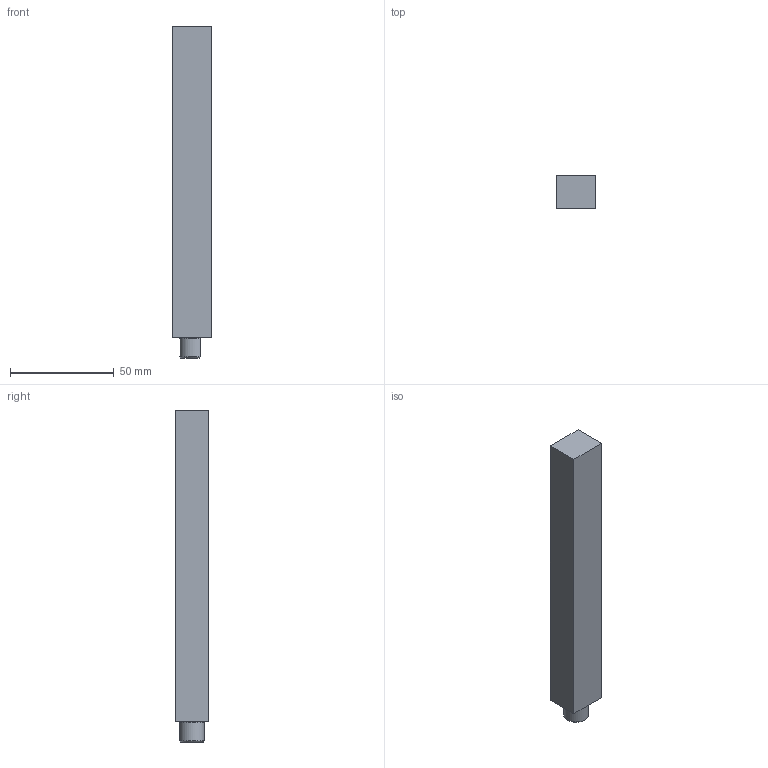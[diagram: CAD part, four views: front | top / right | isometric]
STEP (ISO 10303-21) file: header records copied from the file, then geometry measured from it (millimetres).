
FILE_DESCRIPTION (( 'STEP AP214' ), '1' );
FILE_NAME ('KKPHF Pin S_-_12-150.step', '2024-02-07T08:54:00', ( '' ), ( '' ), 'SwSTEP 2.0', 'SolidWorks 2020', '' );
FILE_SCHEMA (( 'AUTOMOTIVE_DESIGN' ));
Length unit declared in the file: millimetre
Products named in the file (1): KKPHF  Pin S_-_12-150
Bounding box: 19 x 16 x 159.9 mm (x, y, z)
Volume: 46295.4 mm3; surface area: 11686.8 mm2
Topology: 1 solids, 1 shells, 15 faces, 31 edges, 19 vertices
Faces by surface type: plane 9, cylinder 3, cone 2, torus 1
Full cylindrical faces by diameter (mm): 5 x1
Entity records: 425 total; most frequent: CARTESIAN_POINT 78, DIRECTION 62, ORIENTED_EDGE 56, EDGE_CURVE 28, AXIS2_PLACEMENT_3D 22, VECTOR 18, EDGE_LOOP 18, LINE 18
